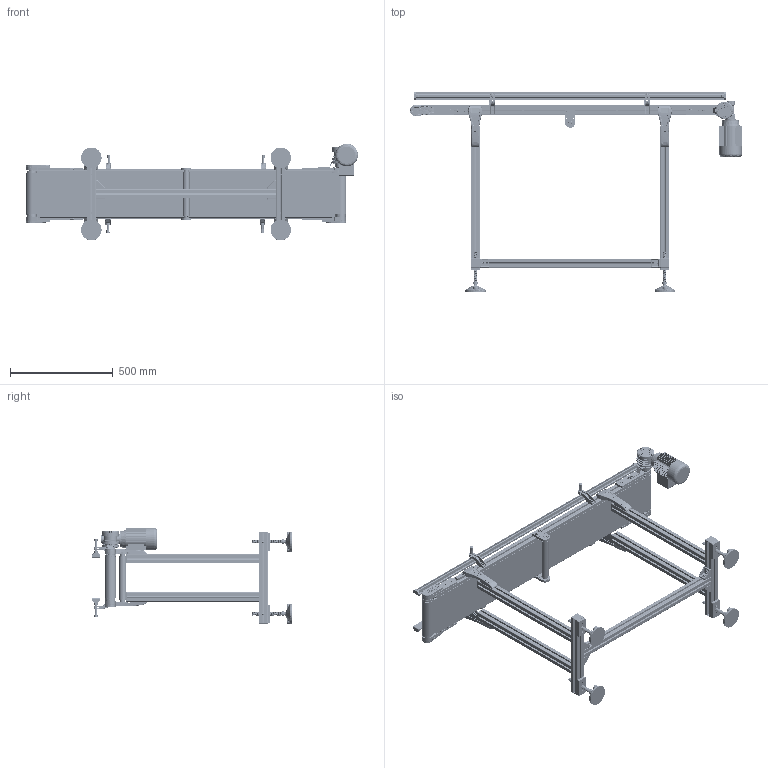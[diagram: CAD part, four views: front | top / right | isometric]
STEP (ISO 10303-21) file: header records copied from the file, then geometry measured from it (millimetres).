
FILE_DESCRIPTION (( 'STEP AP203' ), '1' );
FILE_NAME ('NASTRO_RETTILINEO_TAPPETO.step', '2026-05-06T12:33:26', ( 'Utente Windows' ), ( '' ), 'SwSTEP 2.0', 'SolidWorks 2024', '' );
FILE_SCHEMA (( 'CONFIG_CONTROL_DESIGN' ));
Length unit declared in the file: millimetre
Products named in the file (76): GAMBE_D50_Default<A macchina>; 084.802.014; 084.711.006_L2; VITI TSEI UNI 5933_M4x10 UNI 5933; 084.802.062; 084.712.002; TRAVERSA_50_Default<A macchina>; PIEDE; TAPPETO_STANDARD; 084.302.000 DADI ALUSIC 13x13-1_084.302.004; 084.802.071; 084.802.028; VITE_RONDELLA_M8X20; BLOCCO_BRACCIO_CH03P_VF30P; VITI TSEI UNI 5933_M4x12 UNI 5933; FLANGIA_GAMBA_50; 084.811.004; RONDELLE FASCIA LARGA UNI 6593_5.4x20 UNI 6593; RONDELLE UNI 6592_8.4x17 UNI 6592; 2010.000.069; 084.201.012; 084.802.008; 14UNI7435; RULLO_50_Default<A macchina>; BLOCCO_REGGITAPPETO; 084.711.010; 084.201.012-1; 2010.000.068_L; VITI TCEI UNI 5931_M6x12 UNI 5931; BLOCCO_PERNO_50_RINVIO; CHIAVETTE_A 5x5x20 UNI 6604-69; CH03P_DX; 084.302.000 DADI ALUSIC 13x13_084.302.004; 084.302.000 DADI ALUSIC 13x13-1_084.302.009; 084.301.000 VITI ALUSIC1_084.301.003; 084.711.005; 084.301.000 VITI ALUSIC_084.301.003; 084.811.001; 084.303.001; VITE_DADO_M5X12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
Assembly tree (176 placements, depth 4):
  NASTRO_RETTILINEO_TAPPETO
    TAPPETO_STANDARD
    TELAIO_50_STANDARD_Default<A macchina>
    LAMIERA_STANDARD
    RULLO_50_Default<A macchina>  x2
    BLOCCO_PERNO_50_30
      084.810.001
      084.811.001
      RONDELLE FASCIA LARGA UNI 6593_5.4x20 UNI 6593
      084.301.000 VITI ALUSIC_084.301.009
      CHIAVETTE_A 5x5x40 UNI 6604-69
      CHIAVETTE_A 5x5x20 UNI 6604-69
      14UNI7435
    BLOCCO_TRAINO_50_STANDARD_30_DX
      084.807.003_084.807.003<A macchina>
      084.802.017_084.802.017
      084.301.000 VITI ALUSIC_084.301.003  x2
      084.302.000 DADI ALUSIC 13x13-1_084.302.004  x2
      BLOCCO_BRACCIO_CH03P_VF30P
        084.808.012
        084.802.062
        084.802.061
        VITI TE UNI 5739_M6x16 UNI 5739  x4
        084.803.018
        VITI TCEI UNI 5931_M6x12 UNI 5931  x4
      084.802.065_Default<A macchina>
      VITI TCEI UNI 5931_M4x25 UNI 5931  x2
    BLOCCO_PERNO_50_RINVIO  x3
      084.811.004
      084.810.001
    BLOCCO_TRAINO_50_STANDARD
      084.807.002_084.807.002
      084.802.017_084.802.017
      084.301.000 VITI ALUSIC_084.301.003  x2
      084.302.000 DADI ALUSIC 13x13-1_084.302.004  x2
      VITI TSEI UNI 5933_M4x12 UNI 5933  x4
      084.802.071
      VITI TSEI UNI 5933 INOX_0412UNI5933A2  x2
    BLOCCO_RINVIO_50_STANDARD  x2
      084.807.002_084.807.002
      084.802.017_084.802.017
      084.802.008
      084.301.000 VITI ALUSIC_084.301.003
      084.302.000 DADI ALUSIC 13x13_084.302.004
      VITI TSEI UNI 5933_M4x10 UNI 5933
      084.802.071
    SPONDA_Default<A macchina>  x2
    084.711.006_PER CAVA 8 PERNO ALTO 1  x4
      084.711.006_L1
      084.711.006_L2
      084.711.007
      084.711.005
      084.711.010
      DADI ESAGONALI NORMALI UNI 5588_M6 UNI 5588
    084.712.002  x4
    GAMBE_D50_Default<A macchina>  x2
    FLANGIA_GAMBA_50
      084.302.000 DADI ALUSIC 13x13-1_084.302.004  x4
      RONDELLE UNI 6592_8.4x17 UNI 6592  x3
      084.301.000 VITI ALUSIC_084.301.003  x4
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Bounding box: 1612 x 972.1 x 467.94 mm (x, y, z)
Volume: 11994641.5 mm3; surface area: 8420439.3 mm2
Topology: 303 solids, 311 shells, 16714 faces, 43541 edges, 27677 vertices
Faces by surface type: plane 7015, cylinder 5263, bspline 1770, cone 1371, torus 1129, sphere 166
Entity records: 258048 total; most frequent: CARTESIAN_POINT 87144, ORIENTED_EDGE 35270, DIRECTION 31556, EDGE_CURVE 17635, VERTEX_POINT 11338, AXIS2_PLACEMENT_3D 10913, LINE 9730, VECTOR 9730
